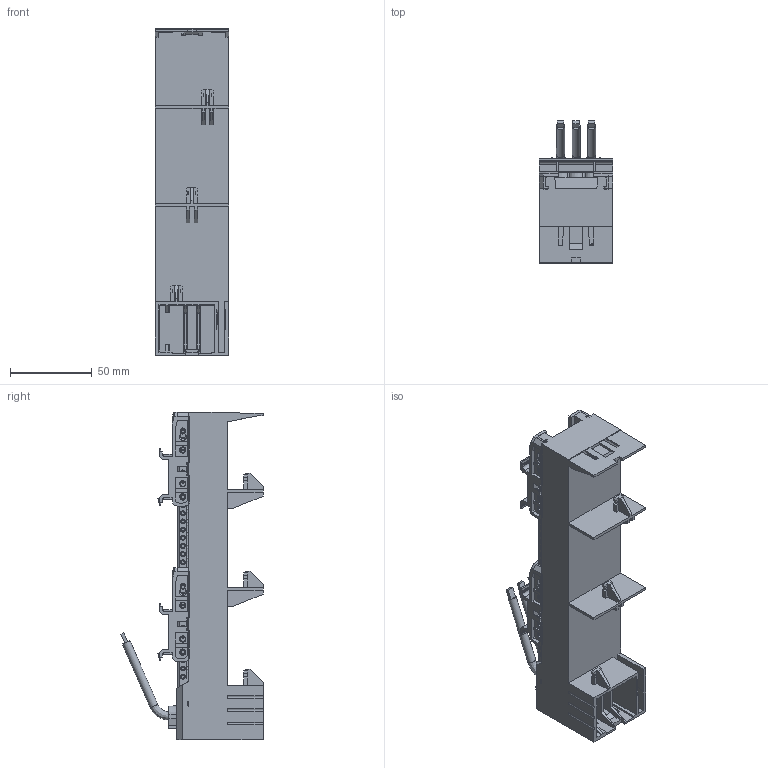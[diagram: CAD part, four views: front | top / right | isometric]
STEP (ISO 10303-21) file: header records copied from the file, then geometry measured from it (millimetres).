
FILE_DESCRIPTION (( 'STEP AP203' ), '1' );
FILE_NAME ('55345.STEP', '2021-08-17T00:18:04', ( '' ), ( '' ), 'SwSTEP 2.0', 'SolidWorks 2017', '' );
FILE_SCHEMA (( 'CONFIG_CONTROL_DESIGN' ));
Products named in the file (2): 55345
Bounding box: 45.01 x 87.2 x 200.7 mm (x, y, z)
Volume: 273836.1 mm3; surface area: 86022 mm2
Topology: 6 solids, 14 shells, 2172 faces, 6202 edges, 4204 vertices
Faces by surface type: plane 1370, cylinder 615, cone 166, bspline 21
Full cylindrical faces by diameter (mm): 1.988 x130, 2.779 x8, 2.882 x12, 2.982 x130, 4.864 x8, 5 x6, 5.169 x2
Entity records: 93186 total; most frequent: CARTESIAN_POINT 42122, ORIENTED_EDGE 10978, DIRECTION 8865, EDGE_CURVE 5489, VERTEX_POINT 3932, LINE 3337, VECTOR 3337, EDGE_LOOP 2869
